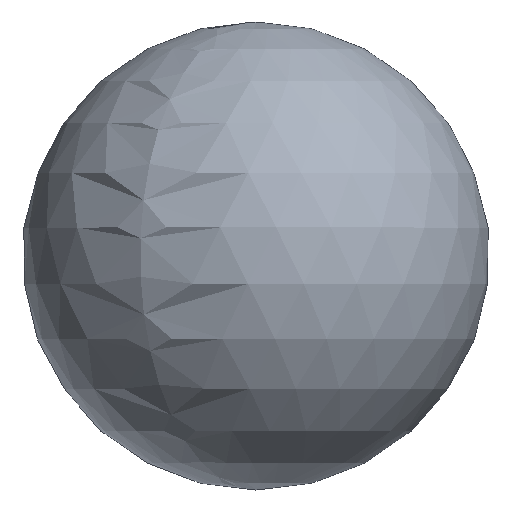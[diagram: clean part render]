
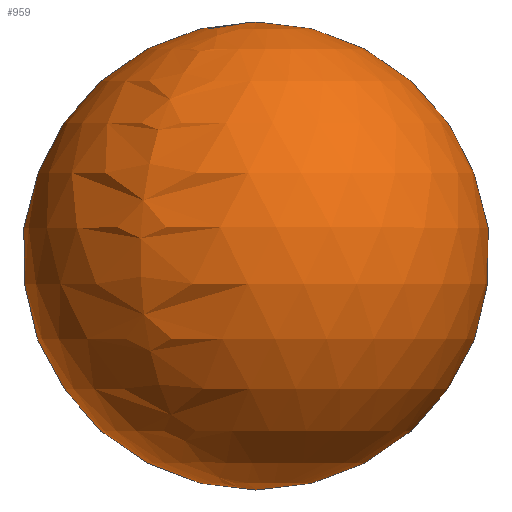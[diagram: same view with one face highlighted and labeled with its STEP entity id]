
A CAD part, top view. The second image highlights one B-rep face of the part: STEP entity #959.
In plain terms, the highlighted spherical face has radius 10 mm.
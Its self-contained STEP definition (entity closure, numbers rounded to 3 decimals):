
#35=SPHERICAL_SURFACE('',#1050,10.);
#198=FACE_BOUND('',#312,.T.);
#312=EDGE_LOOP('',(#704));
#398=CIRCLE('',#1049,5.1);
#460=VERTEX_POINT('',#1528);
#552=EDGE_CURVE('',#460,#460,#398,.T.);
#704=ORIENTED_EDGE('',*,*,#552,.T.);
#959=ADVANCED_FACE('',(#198),#35,.T.);
#1049=AXIS2_PLACEMENT_3D('',#1529,#1218,#1219);
#1050=AXIS2_PLACEMENT_3D('',#1530,#1220,#1221);
#1218=DIRECTION('center_axis',(0.,-1.,0.));
#1219=DIRECTION('ref_axis',(-1.,0.,0.));
#1220=DIRECTION('center_axis',(0.,0.,1.));
#1221=DIRECTION('ref_axis',(1.,0.,0.));
#1528=CARTESIAN_POINT('',(5.1,8.602,0.));
#1529=CARTESIAN_POINT('Origin',(0.,8.602,0.));
#1530=CARTESIAN_POINT('Origin',(0.,0.,0.));
